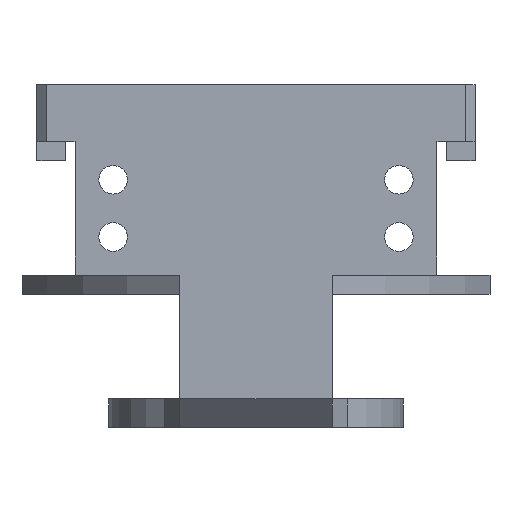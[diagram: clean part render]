
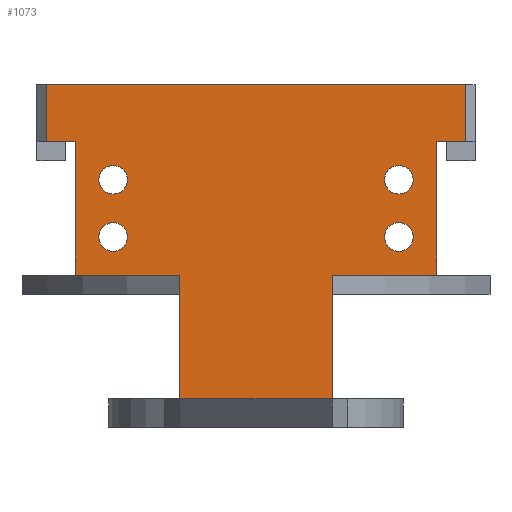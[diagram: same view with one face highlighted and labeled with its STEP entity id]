
A CAD part, front view. The second image highlights one B-rep face of the part: STEP entity #1073.
In plain terms, the highlighted planar face has unit normal (0, -1, 0).
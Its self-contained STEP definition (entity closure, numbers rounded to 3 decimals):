
#20=FACE_BOUND('',#173,.T.);
#21=FACE_BOUND('',#174,.T.);
#22=FACE_BOUND('',#175,.T.);
#23=FACE_BOUND('',#176,.T.);
#44=CIRCLE('',#1153,1.5);
#45=CIRCLE('',#1155,1.5);
#46=CIRCLE('',#1157,1.5);
#47=CIRCLE('',#1159,1.5);
#113=FACE_OUTER_BOUND('',#172,.T.);
#172=EDGE_LOOP('',(#962,#963,#964,#965,#966,#967,#968,#969,#970,#971,#972,
#973));
#173=EDGE_LOOP('',(#974));
#174=EDGE_LOOP('',(#975));
#175=EDGE_LOOP('',(#976));
#176=EDGE_LOOP('',(#977));
#211=LINE('',#1542,#337);
#220=LINE('',#1563,#346);
#228=LINE('',#1580,#354);
#234=LINE('',#1593,#360);
#240=LINE('',#1608,#366);
#254=LINE('',#1638,#380);
#290=LINE('',#1720,#416);
#296=LINE('',#1740,#422);
#297=LINE('',#1742,#423);
#299=LINE('',#1746,#425);
#301=LINE('',#1750,#427);
#302=LINE('',#1752,#428);
#337=VECTOR('',#1250,10.);
#346=VECTOR('',#1269,10.);
#354=VECTOR('',#1285,10.);
#360=VECTOR('',#1295,10.);
#366=VECTOR('',#1305,10.);
#380=VECTOR('',#1327,10.);
#416=VECTOR('',#1409,10.);
#422=VECTOR('',#1433,10.);
#423=VECTOR('',#1436,10.);
#425=VECTOR('',#1440,10.);
#427=VECTOR('',#1444,10.);
#428=VECTOR('',#1447,10.);
#460=VERTEX_POINT('',#1539);
#461=VERTEX_POINT('',#1541);
#467=VERTEX_POINT('',#1559);
#470=VERTEX_POINT('',#1573);
#473=VERTEX_POINT('',#1578);
#478=VERTEX_POINT('',#1592);
#484=VERTEX_POINT('',#1605);
#485=VERTEX_POINT('',#1607);
#520=VERTEX_POINT('',#1718);
#521=VERTEX_POINT('',#1722);
#522=VERTEX_POINT('',#1726);
#523=VERTEX_POINT('',#1730);
#524=VERTEX_POINT('',#1734);
#525=VERTEX_POINT('',#1738);
#526=VERTEX_POINT('',#1744);
#527=VERTEX_POINT('',#1748);
#572=EDGE_CURVE('',#460,#461,#211,.T.);
#583=EDGE_CURVE('',#461,#467,#220,.T.);
#591=EDGE_CURVE('',#473,#470,#228,.T.);
#597=EDGE_CURVE('',#470,#478,#234,.T.);
#604=EDGE_CURVE('',#484,#485,#240,.T.);
#620=EDGE_CURVE('',#473,#485,#254,.T.);
#661=EDGE_CURVE('',#520,#484,#290,.T.);
#662=EDGE_CURVE('',#521,#521,#44,.T.);
#664=EDGE_CURVE('',#522,#522,#45,.T.);
#666=EDGE_CURVE('',#523,#523,#46,.T.);
#668=EDGE_CURVE('',#524,#524,#47,.T.);
#671=EDGE_CURVE('',#460,#525,#296,.T.);
#672=EDGE_CURVE('',#525,#478,#297,.T.);
#674=EDGE_CURVE('',#526,#520,#299,.T.);
#676=EDGE_CURVE('',#526,#527,#301,.T.);
#677=EDGE_CURVE('',#527,#467,#302,.T.);
#962=ORIENTED_EDGE('',*,*,#583,.F.);
#963=ORIENTED_EDGE('',*,*,#572,.F.);
#964=ORIENTED_EDGE('',*,*,#671,.T.);
#965=ORIENTED_EDGE('',*,*,#672,.T.);
#966=ORIENTED_EDGE('',*,*,#597,.F.);
#967=ORIENTED_EDGE('',*,*,#591,.F.);
#968=ORIENTED_EDGE('',*,*,#620,.T.);
#969=ORIENTED_EDGE('',*,*,#604,.F.);
#970=ORIENTED_EDGE('',*,*,#661,.F.);
#971=ORIENTED_EDGE('',*,*,#674,.F.);
#972=ORIENTED_EDGE('',*,*,#676,.T.);
#973=ORIENTED_EDGE('',*,*,#677,.T.);
#974=ORIENTED_EDGE('',*,*,#662,.T.);
#975=ORIENTED_EDGE('',*,*,#664,.T.);
#976=ORIENTED_EDGE('',*,*,#666,.T.);
#977=ORIENTED_EDGE('',*,*,#668,.T.);
#1019=PLANE('',#1165);
#1073=ADVANCED_FACE('',(#113,#20,#21,#22,#23),#1019,.T.);
#1153=AXIS2_PLACEMENT_3D('',#1723,#1412,#1413);
#1155=AXIS2_PLACEMENT_3D('',#1727,#1417,#1418);
#1157=AXIS2_PLACEMENT_3D('',#1731,#1422,#1423);
#1159=AXIS2_PLACEMENT_3D('',#1735,#1427,#1428);
#1165=AXIS2_PLACEMENT_3D('',#1753,#1448,#1449);
#1250=DIRECTION('',(0.,0.,-1.));
#1269=DIRECTION('',(-1.,0.,0.));
#1285=DIRECTION('',(0.,0.,-1.));
#1295=DIRECTION('',(-1.,0.,0.));
#1305=DIRECTION('',(0.,0.,1.));
#1327=DIRECTION('',(-1.,0.,0.));
#1409=DIRECTION('',(-1.,0.,0.));
#1412=DIRECTION('center_axis',(0.,1.,0.));
#1413=DIRECTION('ref_axis',(1.,0.,0.));
#1417=DIRECTION('center_axis',(0.,1.,0.));
#1418=DIRECTION('ref_axis',(1.,0.,0.));
#1422=DIRECTION('center_axis',(0.,1.,0.));
#1423=DIRECTION('ref_axis',(1.,0.,0.));
#1427=DIRECTION('center_axis',(0.,1.,0.));
#1428=DIRECTION('ref_axis',(1.,0.,0.));
#1433=DIRECTION('',(1.,0.,0.));
#1436=DIRECTION('',(0.,0.,1.));
#1440=DIRECTION('',(0.,0.,1.));
#1444=DIRECTION('',(1.,0.,0.));
#1447=DIRECTION('',(0.,0.,-1.));
#1448=DIRECTION('center_axis',(0.,-1.,0.));
#1449=DIRECTION('ref_axis',(-1.,0.,0.));
#1539=CARTESIAN_POINT('',(48.,-53.,0.));
#1541=CARTESIAN_POINT('',(48.,-53.,-13.));
#1542=CARTESIAN_POINT('',(48.,-53.,0.));
#1559=CARTESIAN_POINT('',(32.,-53.,-13.));
#1563=CARTESIAN_POINT('',(44.,-53.,-13.));
#1573=CARTESIAN_POINT('',(62.,-53.,14.));
#1578=CARTESIAN_POINT('',(62.,-53.,20.));
#1580=CARTESIAN_POINT('',(62.,-53.,10.));
#1592=CARTESIAN_POINT('',(59.,-53.,14.));
#1593=CARTESIAN_POINT('',(59.,-53.,14.));
#1605=CARTESIAN_POINT('',(18.,-53.,14.));
#1607=CARTESIAN_POINT('',(18.,-53.,20.));
#1608=CARTESIAN_POINT('',(18.,-53.,10.));
#1638=CARTESIAN_POINT('',(21.,-53.,20.));
#1718=CARTESIAN_POINT('',(21.,-53.,14.));
#1720=CARTESIAN_POINT('',(21.,-53.,14.));
#1722=CARTESIAN_POINT('',(23.5,-53.,4.));
#1723=CARTESIAN_POINT('Origin',(25.,-53.,4.));
#1726=CARTESIAN_POINT('',(53.5,-53.,10.));
#1727=CARTESIAN_POINT('Origin',(55.,-53.,10.));
#1730=CARTESIAN_POINT('',(23.5,-53.,10.));
#1731=CARTESIAN_POINT('Origin',(25.,-53.,10.));
#1734=CARTESIAN_POINT('',(53.5,-53.,4.));
#1735=CARTESIAN_POINT('Origin',(55.,-53.,4.));
#1738=CARTESIAN_POINT('',(59.,-53.,0.));
#1740=CARTESIAN_POINT('',(21.,-53.,0.));
#1742=CARTESIAN_POINT('',(59.,-53.,0.));
#1744=CARTESIAN_POINT('',(21.,-53.,0.));
#1746=CARTESIAN_POINT('',(21.,-53.,0.));
#1748=CARTESIAN_POINT('',(32.,-53.,0.));
#1750=CARTESIAN_POINT('',(21.,-53.,0.));
#1752=CARTESIAN_POINT('',(32.,-53.,0.));
#1753=CARTESIAN_POINT('Origin',(48.,-53.,0.));
